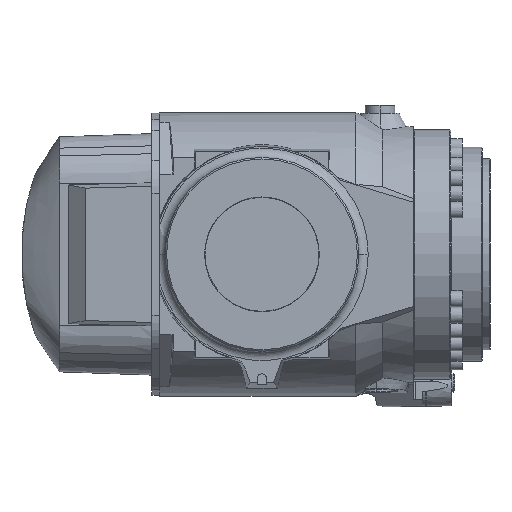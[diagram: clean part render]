
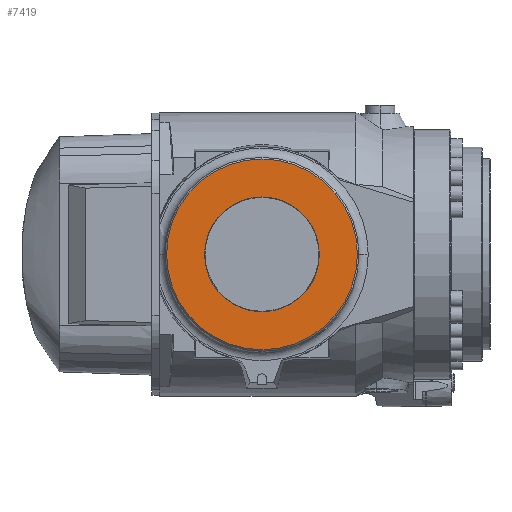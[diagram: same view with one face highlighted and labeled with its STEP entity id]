
A CAD part, front view. The second image highlights one B-rep face of the part: STEP entity #7419.
In plain terms, the highlighted planar face has unit normal (0, -1, 0).
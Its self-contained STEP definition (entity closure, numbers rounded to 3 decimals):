
#183 = CIRCLE ( 'NONE', #9916, 37. ) ;
#500 = FACE_OUTER_BOUND ( 'NONE', #8909, .T. ) ;
#1270 = CARTESIAN_POINT ( 'NONE',  ( 1765.5, -91., 2165. ) ) ;
#2239 = EDGE_LOOP ( 'NONE', ( #3264, #9908 ) ) ;
#2369 = CIRCLE ( 'NONE', #4655, 37. ) ;
#2443 = DIRECTION ( 'NONE',  ( 1., 0., 0. ) ) ;
#2998 = ORIENTED_EDGE ( 'NONE', *, *, #5981, .T. ) ;
#3143 = CARTESIAN_POINT ( 'NONE',  ( 1765.5, -91., 2165. ) ) ;
#3264 = ORIENTED_EDGE ( 'NONE', *, *, #9794, .F. ) ;
#4168 = EDGE_CURVE ( 'NONE', #11602, #15888, #2369, .T. ) ;
#4234 = DIRECTION ( 'NONE',  ( 0., -1., 0. ) ) ;
#4290 = DIRECTION ( 'NONE',  ( 1., 0., 0. ) ) ;
#4377 = PLANE ( 'NONE',  #14785 ) ;
#4655 = AXIS2_PLACEMENT_3D ( 'NONE', #16300, #12338, #6767 ) ;
#4703 = CIRCLE ( 'NONE', #14734, 61.5 ) ;
#5639 = AXIS2_PLACEMENT_3D ( 'NONE', #13301, #9172, #2443 ) ;
#5981 = EDGE_CURVE ( 'NONE', #13001, #7477, #4703, .T. ) ;
#6767 = DIRECTION ( 'NONE',  ( 1., 0., 0. ) ) ;
#7419 = ADVANCED_FACE ( 'NONE', ( #500, #16676 ), #4377, .T. ) ;
#7477 = VERTEX_POINT ( 'NONE', #15684 ) ;
#8615 = DIRECTION ( 'NONE',  ( 1., 0., 0. ) ) ;
#8909 = EDGE_LOOP ( 'NONE', ( #9749, #2998 ) ) ;
#9172 = DIRECTION ( 'NONE',  ( 0., -1., 0. ) ) ;
#9717 = DIRECTION ( 'NONE',  ( 0., -1., 0. ) ) ;
#9721 = EDGE_CURVE ( 'NONE', #7477, #13001, #11926, .T. ) ;
#9749 = ORIENTED_EDGE ( 'NONE', *, *, #9721, .T. ) ;
#9794 = EDGE_CURVE ( 'NONE', #15888, #11602, #183, .T. ) ;
#9908 = ORIENTED_EDGE ( 'NONE', *, *, #4168, .F. ) ;
#9916 = AXIS2_PLACEMENT_3D ( 'NONE', #1270, #9717, #12240 ) ;
#10012 = CARTESIAN_POINT ( 'NONE',  ( 1765.5, -91., 2165. ) ) ;
#11602 = VERTEX_POINT ( 'NONE', #12654 ) ;
#11926 = CIRCLE ( 'NONE', #5639, 61.5 ) ;
#12240 = DIRECTION ( 'NONE',  ( 1., 0., 0. ) ) ;
#12338 = DIRECTION ( 'NONE',  ( 0., -1., 0. ) ) ;
#12654 = CARTESIAN_POINT ( 'NONE',  ( 1728.5, -91., 2165. ) ) ;
#13001 = VERTEX_POINT ( 'NONE', #15713 ) ;
#13301 = CARTESIAN_POINT ( 'NONE',  ( 1765.5, -91., 2165. ) ) ;
#14061 = DIRECTION ( 'NONE',  ( 0., -1., 0. ) ) ;
#14734 = AXIS2_PLACEMENT_3D ( 'NONE', #3143, #4234, #8615 ) ;
#14785 = AXIS2_PLACEMENT_3D ( 'NONE', #10012, #14061, #4290 ) ;
#15622 = CARTESIAN_POINT ( 'NONE',  ( 1802.5, -91., 2165. ) ) ;
#15684 = CARTESIAN_POINT ( 'NONE',  ( 1704., -91., 2165. ) ) ;
#15713 = CARTESIAN_POINT ( 'NONE',  ( 1827., -91., 2165. ) ) ;
#15888 = VERTEX_POINT ( 'NONE', #15622 ) ;
#16300 = CARTESIAN_POINT ( 'NONE',  ( 1765.5, -91., 2165. ) ) ;
#16676 = FACE_BOUND ( 'NONE', #2239, .T. ) ;
